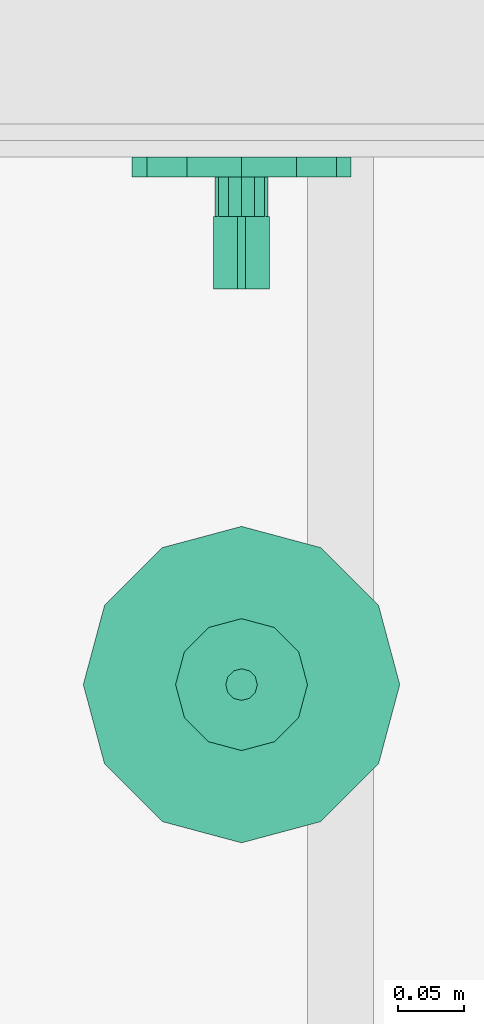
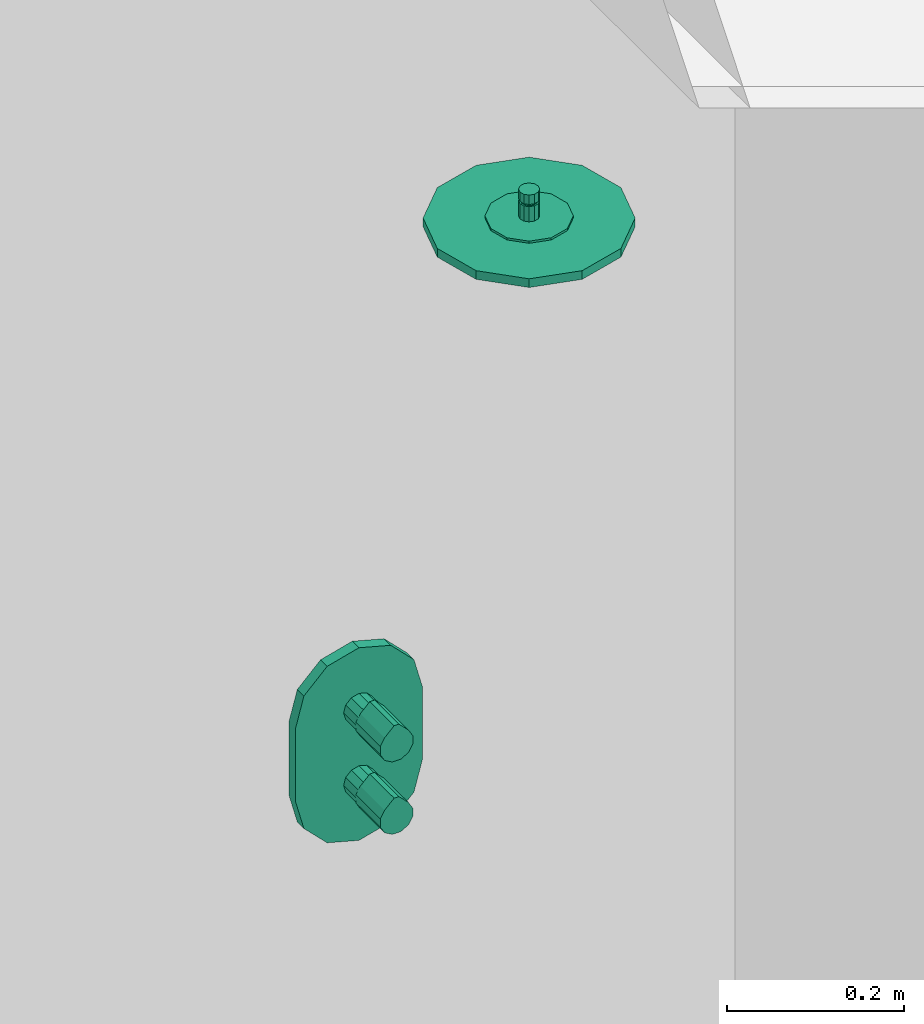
# One storey, part 31 of 35: 1 flow terminal.
"""IFC2X3 building model written with IfcOpenShell, lengths in millimetres."""

from ifc_helpers import new_model, entity, si_unit, converted_unit, derived_unit, money_unit, direction, frame, origin_with_axes, place, context, subcontext, project, spatial, faceted_brep, type_object, element, save


model = new_model("IFC2X3")

# Units and contexts
model_context = context("Model", 3, precision=0.01, world=origin_with_axes(), true_north=direction((0.0, 1.0)))
body_context = subcontext(model_context, "Body", "Model", "MODEL_VIEW")
ifc_project = project(units=[si_unit("LENGTHUNIT", "METRE", prefix="MILLI"), si_unit("AREAUNIT", "SQUARE_METRE"), si_unit("VOLUMEUNIT", "CUBIC_METRE"), converted_unit("PLANEANGLEUNIT", "DEGREE", entity("IfcPlaneAngleMeasure", 0.0174532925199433), si_unit("PLANEANGLEUNIT", "RADIAN"), dimensions=[0, 0, 0, 0, 0, 0, 0]), money_unit("EUR"), converted_unit("TIMEUNIT", "Year", entity("IfcTimeMeasure", 31557600.0), si_unit("TIMEUNIT", "SECOND"), dimensions=[0, 0, 1, 0, 0, 0, 0]), si_unit("MASSUNIT", "GRAM", prefix="KILO"), si_unit("THERMODYNAMICTEMPERATUREUNIT", "DEGREE_CELSIUS"), si_unit("LUMINOUSINTENSITYUNIT", "LUMEN"), si_unit("ENERGYUNIT", "JOULE", prefix="MEGA"), derived_unit("THERMALCONDUCTANCEUNIT", [(si_unit("POWERUNIT", "WATT"), 1), (si_unit("LENGTHUNIT", "METRE"), -1), (si_unit("THERMODYNAMICTEMPERATUREUNIT", "KELVIN"), -1)]), derived_unit("SPECIFICHEATCAPACITYUNIT", [(si_unit("ENERGYUNIT", "JOULE"), 1), (si_unit("MASSUNIT", "GRAM", prefix="KILO"), -1), (si_unit("THERMODYNAMICTEMPERATUREUNIT", "KELVIN"), -1)]), derived_unit("MASSDENSITYUNIT", [(si_unit("MASSUNIT", "GRAM", prefix="KILO"), 1), (si_unit("VOLUMEUNIT", "CUBIC_METRE"), -1)])], contexts=[model_context])

# Site, building, storey
site_placement = place(None, origin_with_axes())
site = spatial("IfcSite", under=ifc_project, at=site_placement, Name="<site naam>", CompositionType="ELEMENT")
building_placement = place(site_placement, origin_with_axes())
building = spatial("IfcBuilding", under=site, at=building_placement, Name="<Naam gebouw>", CompositionType="ELEMENT")
storey_placement = place(building_placement, frame((0.0, 0.0, 6345.0), z_axis=(0.0, 0.0, 1.0), x_axis=(1.0, 0.0, 0.0)))
storey = spatial("IfcBuildingStorey", under=building, at=storey_placement, Name="02 2e tussenverdieping", CompositionType="ELEMENT", Elevation=6345.0)

# Flow terminal
sanitary_terminal_type = type_object("IfcSanitaryTerminalType", Name="Douche armatuur 27", PredefinedType="NOTDEFINED")
flow_terminal_placement = place(storey_placement, frame((57657.78284470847, 2100.000000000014, -75.00000000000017), z_axis=(0.0, 0.0, 1.0), x_axis=(1.0, 0.0, 0.0)))
element("IfcFlowTerminal", 1, at=flow_terminal_placement, inside=storey, type_object=sanitary_terminal_type, Name="74_Brandslanghaspelkast_Lege", ObjectType="Sanitary Terminal", context=body_context, shape_type="Brep", body=[
    faceted_brep([(83.0, 0.0, 1000.0), (83.0, -15.0, 1000.0), (83.0, -15.0, 950.0), (83.0, 0.0, 950.0), (83.0, 0.0, 1050.0), (83.0, -15.0, 1050.0), (71.88010851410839, -14.99999999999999, 1091.5), (41.49999999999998, -14.99999999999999, 1121.880108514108), (0.0, -14.99999999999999, 1133.0), (-41.50000000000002, -14.99999999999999, 1121.880108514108), (-71.88010851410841, -14.99999999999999, 1091.5), (-83.0, -15.0, 1050.0), (-83.0, -15.0, 950.0), (-71.88010851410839, -15.00000000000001, 908.5), (-41.49999999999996, -15.00000000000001, 878.1198914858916), (0.0, -15.00000000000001, 867.0), (41.50000000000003, -15.00000000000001, 878.1198914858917), (71.88010851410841, -15.00000000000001, 908.5), (71.88010851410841, 0.0, 908.5), (41.50000000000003, 0.0, 878.1198914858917), (0.0, 0.0, 867.0), (-41.49999999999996, 0.0, 878.1198914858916), (-71.88010851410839, 0.0, 908.5), (-83.0, 0.0, 950.0), (-83.0, 0.0, 1050.0), (-71.88010851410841, 0.0, 1091.5), (-41.50000000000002, 0.0, 1121.880108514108), (0.0, 0.0, 1133.0), (41.49999999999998, 0.0, 1121.880108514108), (71.88010851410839, 0.0, 1091.5)], [[[0, 1, 2, 3]], [[4, 5, 1, 0]], [[1, 5, 6, 7, 8, 9, 10, 11, 12, 13, 14, 15, 16, 17, 2]], [[3, 2, 17, 18]], [[0, 3, 18, 19, 20, 21, 22, 23, 24, 25, 26, 27, 28, 29, 4]], [[29, 6, 5, 4]], [[28, 7, 6, 29]], [[27, 8, 7, 28]], [[26, 9, 8, 27]], [[25, 10, 9, 26]], [[24, 11, 10, 25]], [[23, 12, 11, 24]], [[22, 13, 12, 23]], [[21, 14, 13, 22]], [[20, 15, 14, 21]], [[19, 16, 15, 20]], [[18, 17, 16, 19]]]),
    faceted_brep([(-17.32050807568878, -45.0, 960.0), (-17.32050807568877, -15.0, 960.0), (-20.0, -15.0, 950.0), (-20.0, -45.0, 950.0), (-10.00000000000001, -45.0, 967.3205080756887), (-10.0, -15.0, 967.3205080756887), (0.0, -15.0, 970.0), (9.999999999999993, -15.0, 967.3205080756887), (17.32050807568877, -15.0, 960.0), (20.0, -15.0, 950.0), (17.32050807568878, -15.0, 940.0), (10.00000000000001, -15.0, 932.6794919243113), (0.0, -15.0, 929.9999999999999), (-9.999999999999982, -15.0, 932.6794919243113), (-17.32050807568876, -15.0, 940.0), (-17.32050807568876, -45.0, 940.0), (-9.999999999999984, -45.0, 932.6794919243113), (0.0, -45.0, 929.9999999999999), (10.00000000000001, -45.0, 932.6794919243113), (17.32050807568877, -45.0, 940.0), (19.99999999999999, -45.0, 950.0), (17.32050807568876, -45.0, 960.0), (9.999999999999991, -45.0, 967.3205080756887), (0.0, -45.0, 970.0)], [[[0, 1, 2, 3]], [[4, 5, 1, 0]], [[2, 1, 5, 6, 7, 8, 9, 10, 11, 12, 13, 14]], [[3, 2, 14, 15]], [[3, 15, 16, 17, 18, 19, 20, 21, 22, 23, 4, 0]], [[23, 6, 5, 4]], [[22, 7, 6, 23]], [[21, 8, 7, 22]], [[20, 9, 8, 21]], [[19, 10, 9, 20]], [[18, 11, 10, 19]], [[17, 12, 11, 18]], [[16, 13, 12, 17]], [[15, 14, 13, 16]]]),
    faceted_brep([(3.111269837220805, -45.0, 978.0014285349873), (3.111269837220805, -100.0, 978.0014285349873), (15.55634918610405, -100.0, 965.5563491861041), (15.55634918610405, -45.0, 965.5563491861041), (-3.111269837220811, -45.0, 978.0014285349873), (-3.111269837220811, -100.0, 978.0014285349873), (-15.55634918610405, -100.0, 965.5563491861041), (-21.2503681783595, -100.0, 955.6940189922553), (-21.2503681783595, -100.0, 944.3059810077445), (-15.55634918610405, -100.0, 934.4436508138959), (-5.694018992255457, -100.0, 928.7496318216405), (5.694018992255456, -100.0, 928.7496318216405), (15.55634918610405, -100.0, 934.4436508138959), (21.2503681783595, -100.0, 944.3059810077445), (21.2503681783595, -100.0, 955.6940189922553), (21.2503681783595, -45.0, 955.6940189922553), (21.2503681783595, -45.0, 944.3059810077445), (15.55634918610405, -45.0, 934.4436508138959), (5.694018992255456, -45.0, 928.7496318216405), (-5.694018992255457, -45.0, 928.7496318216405), (-15.55634918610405, -45.0, 934.4436508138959), (-21.2503681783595, -45.0, 944.3059810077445), (-21.2503681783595, -45.0, 955.6940189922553), (-15.55634918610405, -45.0, 965.5563491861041)], [[[0, 1, 2, 3]], [[4, 5, 1, 0]], [[1, 5, 6, 7, 8, 9, 10, 11, 12, 13, 14, 2]], [[3, 2, 14, 15]], [[0, 3, 15, 16, 17, 18, 19, 20, 21, 22, 23, 4]], [[23, 6, 5, 4]], [[22, 7, 6, 23]], [[21, 8, 7, 22]], [[20, 9, 8, 21]], [[19, 10, 9, 20]], [[18, 11, 10, 19]], [[17, 12, 11, 18]], [[16, 13, 12, 17]], [[15, 14, 13, 16]]]),
    faceted_brep([(-17.32050807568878, -45.0, 1060.0), (-17.32050807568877, -15.0, 1060.0), (-20.0, -15.0, 1050.0), (-20.0, -45.0, 1050.0), (-10.00000000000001, -45.0, 1067.320508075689), (-10.0, -15.0, 1067.320508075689), (0.0, -15.0, 1070.0), (9.999999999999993, -15.0, 1067.320508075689), (17.32050807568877, -15.0, 1060.0), (20.0, -15.0, 1050.0), (17.32050807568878, -15.0, 1040.0), (10.00000000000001, -15.0, 1032.679491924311), (0.0, -15.0, 1030.0), (-9.999999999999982, -15.0, 1032.679491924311), (-17.32050807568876, -15.0, 1040.0), (-17.32050807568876, -45.0, 1040.0), (-9.999999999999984, -45.0, 1032.679491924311), (0.0, -45.0, 1030.0), (10.00000000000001, -45.0, 1032.679491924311), (17.32050807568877, -45.0, 1040.0), (19.99999999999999, -45.0, 1050.0), (17.32050807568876, -45.0, 1060.0), (9.999999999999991, -45.0, 1067.320508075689), (0.0, -45.0, 1070.0)], [[[0, 1, 2, 3]], [[4, 5, 1, 0]], [[2, 1, 5, 6, 7, 8, 9, 10, 11, 12, 13, 14]], [[3, 2, 14, 15]], [[3, 15, 16, 17, 18, 19, 20, 21, 22, 23, 4, 0]], [[23, 6, 5, 4]], [[22, 7, 6, 23]], [[21, 8, 7, 22]], [[20, 9, 8, 21]], [[19, 10, 9, 20]], [[18, 11, 10, 19]], [[17, 12, 11, 18]], [[16, 13, 12, 17]], [[15, 14, 13, 16]]]),
    faceted_brep([(3.111269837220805, -45.0, 1078.001428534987), (3.111269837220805, -100.0, 1078.001428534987), (15.55634918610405, -100.0, 1065.556349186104), (15.55634918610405, -45.0, 1065.556349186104), (-3.111269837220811, -45.0, 1078.001428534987), (-3.111269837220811, -100.0, 1078.001428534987), (-15.55634918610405, -100.0, 1065.556349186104), (-21.2503681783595, -100.0, 1055.694018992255), (-21.2503681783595, -100.0, 1044.305981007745), (-15.55634918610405, -100.0, 1034.443650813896), (-5.694018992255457, -100.0, 1028.74963182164), (5.694018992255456, -100.0, 1028.74963182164), (15.55634918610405, -100.0, 1034.443650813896), (21.2503681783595, -100.0, 1044.305981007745), (21.2503681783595, -100.0, 1055.694018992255), (21.2503681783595, -45.0, 1055.694018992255), (21.2503681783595, -45.0, 1044.305981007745), (15.55634918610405, -45.0, 1034.443650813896), (5.694018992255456, -45.0, 1028.74963182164), (-5.694018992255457, -45.0, 1028.74963182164), (-15.55634918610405, -45.0, 1034.443650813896), (-21.2503681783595, -45.0, 1044.305981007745), (-21.2503681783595, -45.0, 1055.694018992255), (-15.55634918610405, -45.0, 1065.556349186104)], [[[0, 1, 2, 3]], [[4, 5, 1, 0]], [[1, 5, 6, 7, 8, 9, 10, 11, 12, 13, 14, 2]], [[3, 2, 14, 15]], [[0, 3, 15, 16, 17, 18, 19, 20, 21, 22, 23, 4]], [[23, 6, 5, 4]], [[22, 7, 6, 23]], [[21, 8, 7, 22]], [[20, 9, 8, 21]], [[19, 10, 9, 20]], [[18, 11, 10, 19]], [[17, 12, 11, 18]], [[16, 13, 12, 17]], [[15, 14, 13, 16]]]),
    faceted_brep([(-54.99999999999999, -304.7372055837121, 1946.0), (-54.99999999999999, -304.7372055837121, 1948.0), (0.0, -290.0000000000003, 1948.0), (0.0, -290.0000000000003, 1946.0), (-95.26279441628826, -345.0000000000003, 1946.0), (-95.26279441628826, -345.0000000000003, 1948.0), (-60.0, -296.0769515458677, 1948.0), (0.0, -280.0000000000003, 1948.0), (55.0000000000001, -304.7372055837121, 1948.0), (55.0000000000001, -304.7372055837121, 1946.0), (95.2627944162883, -345.0000000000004, 1946.0), (110.0, -400.0000000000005, 1946.0), (95.26279441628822, -455.0000000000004, 1946.0), (54.99999999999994, -495.2627944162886, 1946.0), (0.0, -510.0000000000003, 1946.0), (-55.00000000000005, -495.2627944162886, 1946.0), (-95.26279441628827, -455.0000000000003, 1946.0), (-110.0, -400.0000000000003, 1946.0), (-110.0, -400.0000000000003, 1948.0), (-103.9230484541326, -340.0000000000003, 1948.0), (-60.0, -296.0769515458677, 1960.0), (0.0, -280.0000000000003, 1960.0), (60.00000000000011, -296.0769515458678, 1948.0), (95.2627944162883, -345.0000000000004, 1948.0), (110.0, -400.0000000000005, 1948.0), (95.26279441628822, -455.0000000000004, 1948.0), (54.99999999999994, -495.2627944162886, 1948.0), (0.0, -510.0000000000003, 1948.0), (-55.00000000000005, -495.2627944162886, 1948.0), (-95.26279441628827, -455.0000000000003, 1948.0), (-120.0, -400.0000000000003, 1948.0), (-103.9230484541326, -340.0000000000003, 1960.0), (-25.0, -356.6987298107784, 1960.0), (0.0, -350.0000000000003, 1960.0), (60.00000000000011, -296.0769515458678, 1960.0), (103.9230484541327, -340.0000000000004, 1948.0), (120.0, -400.0000000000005, 1948.0), (103.9230484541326, -460.0000000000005, 1948.0), (59.99999999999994, -503.923048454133, 1948.0), (0.0, -520.0000000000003, 1948.0), (-60.00000000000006, -503.9230484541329, 1948.0), (-103.9230484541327, -460.0000000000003, 1948.0), (-120.0, -400.0000000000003, 1960.0), (-43.30127018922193, -375.0000000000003, 1960.0), (-25.0, -356.6987298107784, 1963.0), (0.0, -350.0000000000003, 1963.0), (25.00000000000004, -356.6987298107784, 1960.0), (103.9230484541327, -340.0000000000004, 1960.0), (120.0, -400.0000000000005, 1960.0), (103.9230484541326, -460.0000000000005, 1960.0), (59.99999999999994, -503.923048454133, 1960.0), (0.0, -520.0000000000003, 1960.0), (-60.00000000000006, -503.9230484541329, 1960.0), (-103.9230484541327, -460.0000000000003, 1960.0), (-50.0, -400.0000000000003, 1960.0), (-43.30127018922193, -375.0000000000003, 1963.0), (-6.000000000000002, -389.6076951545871, 1963.0), (0.0, -388.0000000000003, 1963.0), (25.00000000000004, -356.6987298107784, 1963.0), (43.30127018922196, -375.0000000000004, 1960.0), (50.0, -400.0000000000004, 1960.0), (43.30127018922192, -425.0000000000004, 1960.0), (24.99999999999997, -443.3012701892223, 1960.0), (0.0, -450.0000000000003, 1960.0), (-25.00000000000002, -443.3012701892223, 1960.0), (-43.30127018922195, -425.0000000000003, 1960.0), (-50.0, -400.0000000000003, 1963.0), (-10.39230484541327, -394.0000000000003, 1963.0), (-6.0, -389.6076951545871, 1984.0), (0.0, -388.0000000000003, 1984.0), (6.000000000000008, -389.6076951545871, 1963.0), (43.30127018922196, -375.0000000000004, 1963.0), (50.0, -400.0000000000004, 1963.0), (43.30127018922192, -425.0000000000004, 1963.0), (24.99999999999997, -443.3012701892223, 1963.0), (0.0, -450.0000000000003, 1963.0), (-25.00000000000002, -443.3012701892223, 1963.0), (-43.30127018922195, -425.0000000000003, 1963.0), (-12.0, -400.0000000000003, 1963.0), (-10.39230484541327, -394.0000000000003, 1984.0), (-5.0, -391.339745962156, 1984.0), (0.0, -390.0000000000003, 1984.0), (6.00000000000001, -389.6076951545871, 1984.0), (10.39230484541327, -394.0000000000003, 1963.0), (12.0, -400.0000000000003, 1963.0), (10.39230484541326, -406.0000000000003, 1963.0), (5.99999999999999, -410.3923048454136, 1963.0), (0.0, -412.0000000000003, 1963.0), (-6.000000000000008, -410.3923048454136, 1963.0), (-10.39230484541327, -406.0000000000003, 1963.0), (-12.0, -400.0000000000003, 1984.0), (-8.660254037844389, -395.0000000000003, 1984.0), (-5.0, -391.339745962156, 1987.0), (0.0, -390.0000000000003, 1987.0), (5.000000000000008, -391.339745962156, 1984.0), (10.39230484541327, -394.0000000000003, 1984.0), (12.0, -400.0000000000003, 1984.0), (10.39230484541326, -406.0000000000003, 1984.0), (5.999999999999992, -410.3923048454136, 1984.0), (0.0, -412.0000000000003, 1984.0), (-6.000000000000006, -410.3923048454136, 1984.0), (-10.39230484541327, -406.0000000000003, 1984.0), (-10.0, -400.0000000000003, 1984.0), (-8.660254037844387, -395.0000000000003, 1987.0), (-6.0, -389.6076951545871, 1987.0), (0.0, -388.0000000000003, 1987.0), (5.000000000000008, -391.339745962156, 1987.0), (8.66025403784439, -395.0000000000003, 1984.0), (9.999999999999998, -400.0000000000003, 1984.0), (8.660254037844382, -405.0000000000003, 1984.0), (4.999999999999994, -408.6602540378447, 1984.0), (0.0, -410.0000000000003, 1984.0), (-5.000000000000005, -408.6602540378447, 1984.0), (-8.66025403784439, -405.0000000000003, 1984.0), (-10.0, -400.0000000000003, 1987.0), (-10.39230484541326, -394.0000000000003, 1987.0), (-5.999999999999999, -389.6076951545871, 2000.0), (0.0, -388.0000000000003, 2000.0), (6.00000000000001, -389.6076951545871, 1987.0), (8.66025403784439, -395.0000000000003, 1987.0), (10.0, -400.0000000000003, 1987.0), (8.660254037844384, -405.0000000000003, 1987.0), (4.999999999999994, -408.6602540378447, 1987.0), (0.0, -410.0000000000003, 1987.0), (-5.000000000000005, -408.6602540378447, 1987.0), (-8.660254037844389, -405.0000000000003, 1987.0), (-12.0, -400.0000000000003, 1987.0), (-10.39230484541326, -394.0000000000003, 2000.0), (-12.0, -400.0000000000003, 2000.0), (-10.39230484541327, -406.0000000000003, 2000.0), (-6.000000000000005, -410.3923048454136, 2000.0), (0.0, -412.0000000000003, 2000.0), (5.999999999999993, -410.3923048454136, 2000.0), (10.39230484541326, -406.0000000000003, 2000.0), (12.0, -400.0000000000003, 2000.0), (10.39230484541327, -394.0000000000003, 2000.0), (6.000000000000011, -389.6076951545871, 2000.0), (10.39230484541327, -394.0000000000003, 1987.0), (12.0, -400.0000000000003, 1987.0), (10.39230484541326, -406.0000000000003, 1987.0), (5.999999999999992, -410.3923048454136, 1987.0), (0.0, -412.0000000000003, 1987.0), (-6.000000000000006, -410.3923048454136, 1987.0), (-10.39230484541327, -406.0000000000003, 1987.0)], [[[0, 1, 2, 3]], [[4, 5, 1, 0]], [[1, 6, 7, 2]], [[3, 2, 8, 9]], [[3, 9, 10, 11, 12, 13, 14, 15, 16, 17, 4, 0]], [[17, 18, 5, 4]], [[5, 19, 6, 1]], [[6, 20, 21, 7]], [[2, 7, 22, 8]], [[9, 8, 23, 10]], [[10, 23, 24, 11]], [[11, 24, 25, 12]], [[12, 25, 26, 13]], [[13, 26, 27, 14]], [[14, 27, 28, 15]], [[15, 28, 29, 16]], [[16, 29, 18, 17]], [[18, 30, 19, 5]], [[19, 31, 20, 6]], [[20, 32, 33, 21]], [[7, 21, 34, 22]], [[8, 22, 35, 23]], [[23, 35, 36, 24]], [[24, 36, 37, 25]], [[25, 37, 38, 26]], [[26, 38, 39, 27]], [[27, 39, 40, 28]], [[28, 40, 41, 29]], [[29, 41, 30, 18]], [[30, 42, 31, 19]], [[31, 43, 32, 20]], [[32, 44, 45, 33]], [[21, 33, 46, 34]], [[22, 34, 47, 35]], [[35, 47, 48, 36]], [[36, 48, 49, 37]], [[37, 49, 50, 38]], [[38, 50, 51, 39]], [[39, 51, 52, 40]], [[40, 52, 53, 41]], [[41, 53, 42, 30]], [[42, 54, 43, 31]], [[43, 55, 44, 32]], [[44, 56, 57, 45]], [[33, 45, 58, 46]], [[34, 46, 59, 47]], [[47, 59, 60, 48]], [[48, 60, 61, 49]], [[49, 61, 62, 50]], [[50, 62, 63, 51]], [[51, 63, 64, 52]], [[52, 64, 65, 53]], [[53, 65, 54, 42]], [[54, 66, 55, 43]], [[55, 67, 56, 44]], [[56, 68, 69, 57]], [[45, 57, 70, 58]], [[46, 58, 71, 59]], [[59, 71, 72, 60]], [[60, 72, 73, 61]], [[61, 73, 74, 62]], [[62, 74, 75, 63]], [[63, 75, 76, 64]], [[64, 76, 77, 65]], [[65, 77, 66, 54]], [[66, 78, 67, 55]], [[67, 79, 68, 56]], [[68, 80, 81, 69]], [[57, 69, 82, 70]], [[58, 70, 83, 71]], [[71, 83, 84, 72]], [[72, 84, 85, 73]], [[73, 85, 86, 74]], [[74, 86, 87, 75]], [[75, 87, 88, 76]], [[76, 88, 89, 77]], [[77, 89, 78, 66]], [[78, 90, 79, 67]], [[79, 91, 80, 68]], [[80, 92, 93, 81]], [[69, 81, 94, 82]], [[70, 82, 95, 83]], [[83, 95, 96, 84]], [[84, 96, 97, 85]], [[85, 97, 98, 86]], [[86, 98, 99, 87]], [[87, 99, 100, 88]], [[88, 100, 101, 89]], [[89, 101, 90, 78]], [[90, 102, 91, 79]], [[91, 103, 92, 80]], [[92, 104, 105, 93]], [[81, 93, 106, 94]], [[82, 94, 107, 95]], [[95, 107, 108, 96]], [[96, 108, 109, 97]], [[97, 109, 110, 98]], [[98, 110, 111, 99]], [[99, 111, 112, 100]], [[100, 112, 113, 101]], [[101, 113, 102, 90]], [[102, 114, 103, 91]], [[103, 115, 104, 92]], [[104, 116, 117, 105]], [[93, 105, 118, 106]], [[94, 106, 119, 107]], [[107, 119, 120, 108]], [[108, 120, 121, 109]], [[109, 121, 122, 110]], [[110, 122, 123, 111]], [[111, 123, 124, 112]], [[112, 124, 125, 113]], [[113, 125, 114, 102]], [[114, 126, 115, 103]], [[115, 127, 116, 104]], [[117, 116, 127, 128, 129, 130, 131, 132, 133, 134, 135, 136]], [[105, 117, 136, 118]], [[106, 118, 137, 119]], [[119, 137, 138, 120]], [[120, 138, 139, 121]], [[121, 139, 140, 122]], [[122, 140, 141, 123]], [[123, 141, 142, 124]], [[124, 142, 143, 125]], [[125, 143, 126, 114]], [[126, 128, 127, 115]], [[143, 129, 128, 126]], [[142, 130, 129, 143]], [[141, 131, 130, 142]], [[140, 132, 131, 141]], [[139, 133, 132, 140]], [[138, 134, 133, 139]], [[137, 135, 134, 138]], [[118, 136, 135, 137]]]),
])

save(model, "model.ifc")
